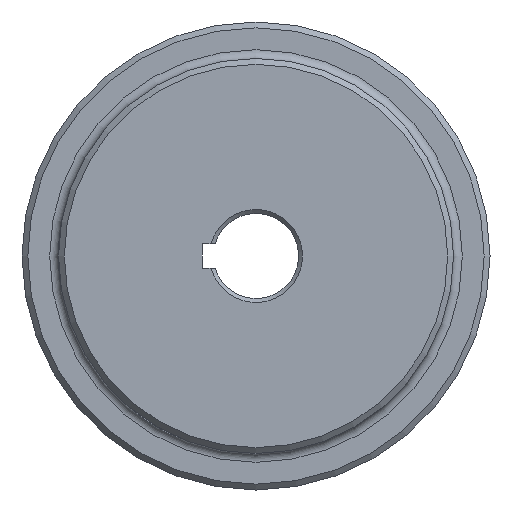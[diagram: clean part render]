
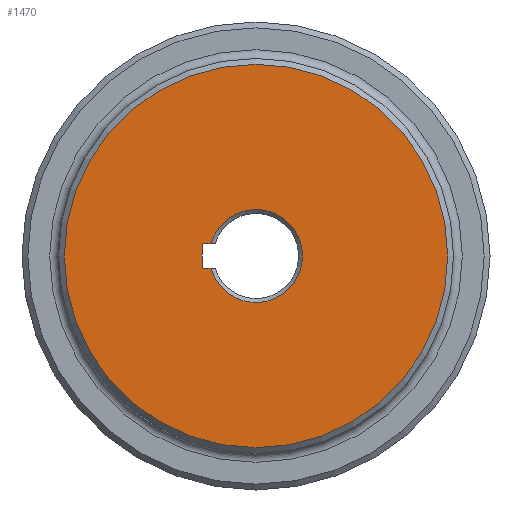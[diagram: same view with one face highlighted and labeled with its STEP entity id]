
A CAD part, left-side view. The second image highlights one B-rep face of the part: STEP entity #1470.
In plain terms, the highlighted planar face has unit normal (-1, 0, 0).
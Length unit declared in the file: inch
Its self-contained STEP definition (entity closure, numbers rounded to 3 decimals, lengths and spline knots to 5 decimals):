
#107 = FACE_BOUND ( 'NONE', #1758, .T. ) ;
#108 = DIRECTION ( 'NONE',  ( 0., -1., 0. ) ) ;
#127 = DIRECTION ( 'NONE',  ( 1., 0., 0. ) ) ;
#141 = ORIENTED_EDGE ( 'NONE', *, *, #2082, .T. ) ;
#147 = CARTESIAN_POINT ( 'NONE',  ( 0., 0., 0.125 ) ) ;
#171 = EDGE_CURVE ( 'NONE', #2108, #2432, #1345, .T. ) ;
#175 = EDGE_CURVE ( 'NONE', #1614, #1614, #1823, .T. ) ;
#182 = VECTOR ( 'NONE', #1597, 39.37008 ) ;
#237 = DIRECTION ( 'NONE',  ( 0., 0., -1. ) ) ;
#243 = AXIS2_PLACEMENT_3D ( 'NONE', #2457, #127, #2195 ) ;
#264 = CARTESIAN_POINT ( 'NONE',  ( 0., 0.55035, 0.125 ) ) ;
#379 = CARTESIAN_POINT ( 'NONE',  ( 0., 0., -0.125 ) ) ;
#406 = CARTESIAN_POINT ( 'NONE',  ( 0., 0., -1.97 ) ) ;
#499 = DIRECTION ( 'NONE',  ( 0., 1., 0. ) ) ;
#663 = VECTOR ( 'NONE', #108, 39.37008 ) ;
#666 = ORIENTED_EDGE ( 'NONE', *, *, #2101, .F. ) ;
#727 = CIRCLE ( 'NONE', #243, 0.47765 ) ;
#737 = CARTESIAN_POINT ( 'NONE',  ( 0., 0.55035, -0.125 ) ) ;
#882 = VECTOR ( 'NONE', #499, 39.37008 ) ;
#991 = DIRECTION ( 'NONE',  ( 0., 0., -1. ) ) ;
#1107 = CARTESIAN_POINT ( 'NONE',  ( 0., 0.461, 0.125 ) ) ;
#1117 = ORIENTED_EDGE ( 'NONE', *, *, #171, .F. ) ;
#1265 = LINE ( 'NONE', #379, #663 ) ;
#1295 = EDGE_LOOP ( 'NONE', ( #1832 ) ) ;
#1302 = VERTEX_POINT ( 'NONE', #2078 ) ;
#1324 = LINE ( 'NONE', #737, #182 ) ;
#1345 = LINE ( 'NONE', #147, #882 ) ;
#1397 = PLANE ( 'NONE',  #1955 ) ;
#1470 = ADVANCED_FACE ( 'NONE', ( #2029, #107 ), #1397, .F. ) ;
#1537 = CARTESIAN_POINT ( 'NONE',  ( 0., 0., 0. ) ) ;
#1597 = DIRECTION ( 'NONE',  ( 0., 0., -1. ) ) ;
#1614 = VERTEX_POINT ( 'NONE', #406 ) ;
#1703 = EDGE_CURVE ( 'NONE', #1302, #2561, #1265, .T. ) ;
#1758 = EDGE_LOOP ( 'NONE', ( #1117, #141, #2205, #666 ) ) ;
#1823 = CIRCLE ( 'NONE', #2384, 1.97 ) ;
#1832 = ORIENTED_EDGE ( 'NONE', *, *, #175, .T. ) ;
#1955 = AXIS2_PLACEMENT_3D ( 'NONE', #1537, #2393, #991 ) ;
#2012 = CARTESIAN_POINT ( 'NONE',  ( 0., 0.461, -0.125 ) ) ;
#2029 = FACE_OUTER_BOUND ( 'NONE', #1295, .T. ) ;
#2078 = CARTESIAN_POINT ( 'NONE',  ( 0., 0.55035, -0.125 ) ) ;
#2082 = EDGE_CURVE ( 'NONE', #2108, #2561, #727, .T. ) ;
#2101 = EDGE_CURVE ( 'NONE', #2432, #1302, #1324, .T. ) ;
#2108 = VERTEX_POINT ( 'NONE', #1107 ) ;
#2195 = DIRECTION ( 'NONE',  ( 0., 0., -1. ) ) ;
#2205 = ORIENTED_EDGE ( 'NONE', *, *, #1703, .F. ) ;
#2384 = AXIS2_PLACEMENT_3D ( 'NONE', #2526, #2565, #237 ) ;
#2393 = DIRECTION ( 'NONE',  ( 1., 0., 0. ) ) ;
#2432 = VERTEX_POINT ( 'NONE', #264 ) ;
#2457 = CARTESIAN_POINT ( 'NONE',  ( 0., 0., 0. ) ) ;
#2526 = CARTESIAN_POINT ( 'NONE',  ( 0., 0., 0. ) ) ;
#2561 = VERTEX_POINT ( 'NONE', #2012 ) ;
#2565 = DIRECTION ( 'NONE',  ( -1., 0., 0. ) ) ;
